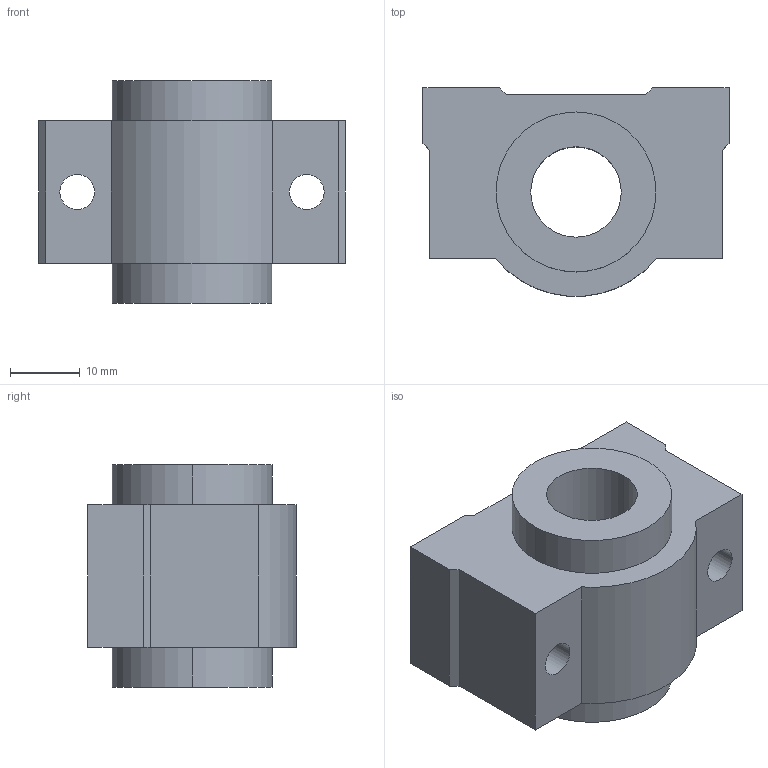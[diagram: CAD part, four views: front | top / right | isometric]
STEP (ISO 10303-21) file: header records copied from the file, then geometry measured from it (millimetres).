
FILE_DESCRIPTION((''),'2;1');
FILE_NAME('C:\Documents and Settings\ｿﾀﾀ蠑ｷ1\ｹﾙﾅﾁ ﾈｭｸ饅\ｺﾎﾇｰﾆﾄﾀﾏ\ﾁｦﾇｰ\SC__VUUN\SC13VUUN.stp','2005-06-22T11:25:04',('ｿﾀﾀ蠑ｷ1'),(''),'Autodesk Inventor 9','Autodesk Inventor 9','');
FILE_SCHEMA(('AUTOMOTIVE_DESIGN { 1 0 10303 214 1 1 1 1 }'));
Length unit declared in the file: millimetre
Products named in the file (1): SC__VUUN
Bounding box: 44 x 29.95 x 32 mm (x, y, z)
Volume: 22402.1 mm3; surface area: 7660.9 mm2
Topology: 1 solids, 1 shells, 28 faces, 72 edges, 48 vertices
Faces by surface type: plane 17, cylinder 7, bspline 4
Entity records: 945 total; most frequent: CARTESIAN_POINT 217, DIRECTION 144, ORIENTED_EDGE 144, EDGE_CURVE 72, VECTOR 50, LINE 50, VERTEX_POINT 48, AXIS2_PLACEMENT_3D 47
